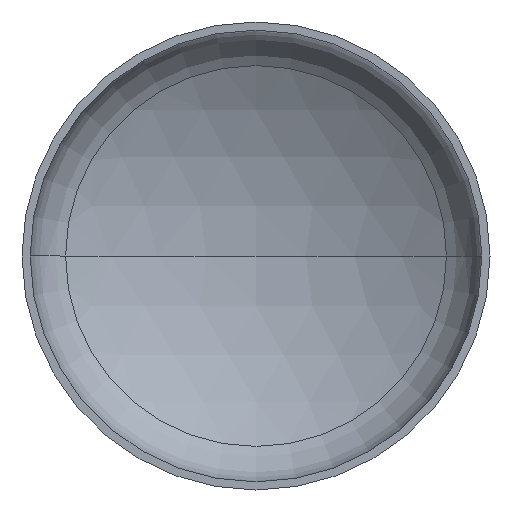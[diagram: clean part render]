
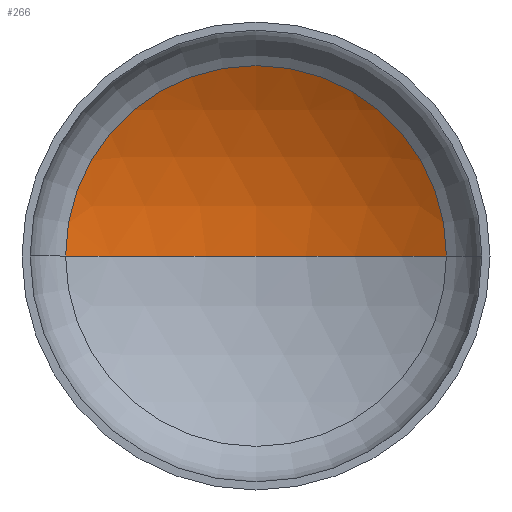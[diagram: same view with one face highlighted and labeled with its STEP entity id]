
A CAD part, front view. The second image highlights one B-rep face of the part: STEP entity #266.
In plain terms, the highlighted spherical face has radius 5200 mm.
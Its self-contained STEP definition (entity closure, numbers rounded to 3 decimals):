
#38 = VERTEX_POINT ( 'NONE', #256 ) ;
#66 = VERTEX_POINT ( 'NONE', #362 ) ;
#73 = ORIENTED_EDGE ( 'NONE', *, *, #250, .T. ) ;
#74 = SPHERICAL_SURFACE ( 'NONE', #122, 5200. ) ;
#81 = ORIENTED_EDGE ( 'NONE', *, *, #255, .T. ) ;
#88 = EDGE_LOOP ( 'NONE', ( #108, #81, #73 ) ) ;
#99 = VERTEX_POINT ( 'NONE', #214 ) ;
#108 = ORIENTED_EDGE ( 'NONE', *, *, #261, .F. ) ;
#122 = AXIS2_PLACEMENT_3D ( 'NONE', #282, #189, #223 ) ;
#136 = AXIS2_PLACEMENT_3D ( 'NONE', #262, #259, #258 ) ;
#139 = AXIS2_PLACEMENT_3D ( 'NONE', #167, #171, #194 ) ;
#143 = AXIS2_PLACEMENT_3D ( 'NONE', #377, #233, #316 ) ;
#167 = CARTESIAN_POINT ( 'NONE',  ( 0., -3541.283, 0. ) ) ;
#171 = DIRECTION ( 'NONE',  ( 0., 0., -1. ) ) ;
#176 = FACE_OUTER_BOUND ( 'NONE', #88, .T. ) ;
#189 = DIRECTION ( 'NONE',  ( 0., 0., -1. ) ) ;
#194 = DIRECTION ( 'NONE',  ( -1., 0., 0. ) ) ;
#214 = CARTESIAN_POINT ( 'NONE',  ( -2644.571, 936.02, 0. ) ) ;
#223 = DIRECTION ( 'NONE',  ( -1., 0., 0. ) ) ;
#233 = DIRECTION ( 'NONE',  ( 0., -1., 0. ) ) ;
#250 = EDGE_CURVE ( 'NONE', #66, #99, #263, .T. ) ;
#253 = CIRCLE ( 'NONE', #136, 5200. ) ;
#255 = EDGE_CURVE ( 'NONE', #38, #66, #375, .T. ) ;
#256 = CARTESIAN_POINT ( 'NONE',  ( 0., 1658.717, 0. ) ) ;
#258 = DIRECTION ( 'NONE',  ( 1., 0., 0. ) ) ;
#259 = DIRECTION ( 'NONE',  ( 0., 0., 1. ) ) ;
#261 = EDGE_CURVE ( 'NONE', #38, #99, #253, .T. ) ;
#262 = CARTESIAN_POINT ( 'NONE',  ( 0., -3541.283, 0. ) ) ;
#263 = CIRCLE ( 'NONE', #143, 2644.571 ) ;
#266 = ADVANCED_FACE ( 'NONE', ( #176 ), #74, .F. ) ;
#282 = CARTESIAN_POINT ( 'NONE',  ( 0., -3541.283, 0. ) ) ;
#316 = DIRECTION ( 'NONE',  ( 1., 0., 0. ) ) ;
#362 = CARTESIAN_POINT ( 'NONE',  ( 2644.571, 936.02, 0. ) ) ;
#375 = CIRCLE ( 'NONE', #139, 5200. ) ;
#377 = CARTESIAN_POINT ( 'NONE',  ( 0., 936.02, 0. ) ) ;
